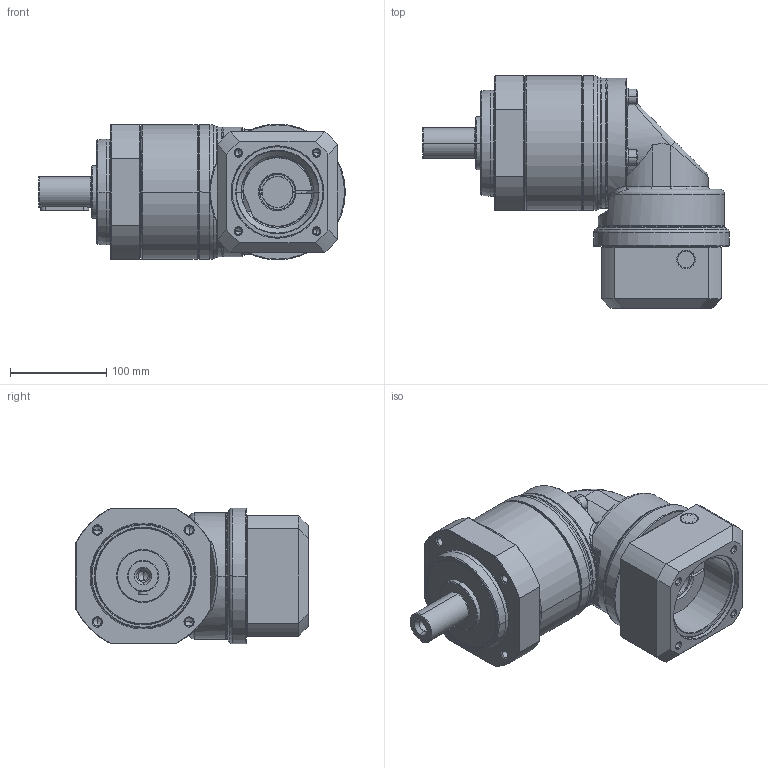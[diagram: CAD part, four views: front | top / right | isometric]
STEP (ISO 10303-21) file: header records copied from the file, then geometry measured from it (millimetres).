
FILE_DESCRIPTION((''),'2;1');
FILE_NAME('PS2R-E_1ST_32-P0411700101_ASM','2016-05-30T',('d01943'),(''),'PRO/ENGINEER BY PARAMETRIC TECHNOLOGY CORPORATION, 2008410','PRO/ENGINEER BY PARAMETRIC TECHNOLOGY CORPORATION, 2008410','');
FILE_SCHEMA(('CONFIG_CONTROL_DESIGN'));
Length unit declared in the file: millimetre
Products named in the file (12): P1328510001; P0250500001; P0350501401; P1349500001; P1017500001; P0713503001; P0503700010; P1350500301; P0411700101; P1702600001; 2111BA10040; PS2R-E_1ST_32-P0411700101_ASM
Assembly tree (14 placements, depth 2):
  PS2R-E_1ST_32-P0411700101_ASM
    P1328510001
    P0250500001
    P0350501401
    P1349500001
    P1017500001
    P0713503001
    P0503700010
    P1350500301
    P0411700101
    P1702600001
    2111BA10040  x4
Bounding box: 318.5 x 241.5 x 141 mm (x, y, z)
Volume: 2949666 mm3; surface area: 477967.1 mm2
Topology: 14 solids, 14 shells, 712 faces, 1575 edges, 909 vertices
Faces by surface type: cylinder 210, cone 208, plane 166, torus 94, bspline 34
Entity records: 22929 total; most frequent: CARTESIAN_POINT 9240, DIRECTION 3006, ORIENTED_EDGE 2662, EDGE_CURVE 1331, AXIS2_PLACEMENT_3D 1262, VERTEX_POINT 789, EDGE_LOOP 688, CIRCLE 657
